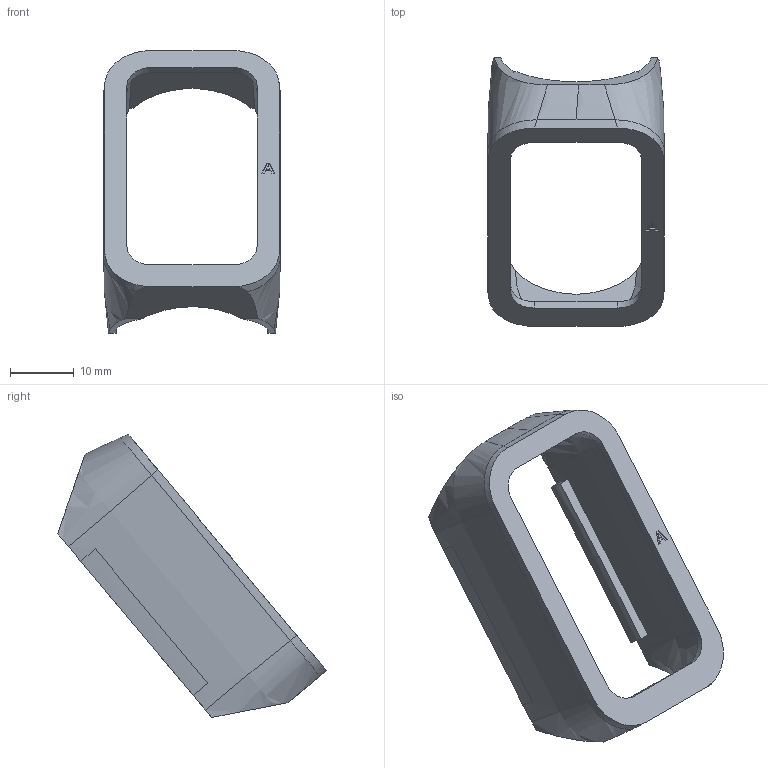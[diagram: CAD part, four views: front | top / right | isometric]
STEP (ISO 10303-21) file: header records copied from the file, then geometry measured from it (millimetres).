
FILE_DESCRIPTION(('Open CASCADE Model'),'2;1');
FILE_NAME('Open CASCADE Shape Model','1970-01-01T00:00:00',('Author'),( 'Open CASCADE'),'Open CASCADE STEP processor 7.8','Open CASCADE 7.8' ,'Unknown');
FILE_SCHEMA(('AUTOMOTIVE_DESIGN { 1 0 10303 214 1 1 1 1 }'));
Length unit declared in the file: millimetre
Products named in the file (2): Open CASCADE STEP translator 7.8 1; cover-retention-a
Assembly tree (1 placements, depth 2):
  Open CASCADE STEP translator 7.8 1
    cover-retention-a
Bounding box: 27.76 x 42.29 x 44.52 mm (x, y, z)
Volume: 3594.3 mm3; surface area: 5202.8 mm2
Topology: 1 solids, 1 shells, 72 faces, 202 edges, 134 vertices
Faces by surface type: bspline 45, plane 23, cylinder 4
Entity records: 9793 total; most frequent: CARTESIAN_POINT 6782, B_SPLINE_CURVE_WITH_KNOTS 422, ORIENTED_EDGE 404, PCURVE 404, DEFINITIONAL_REPRESENTATION 404, DIRECTION 212, EDGE_CURVE 202, SURFACE_CURVE 202
